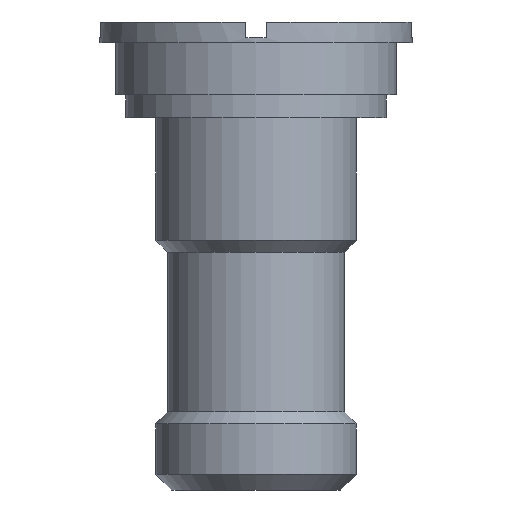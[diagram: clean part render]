
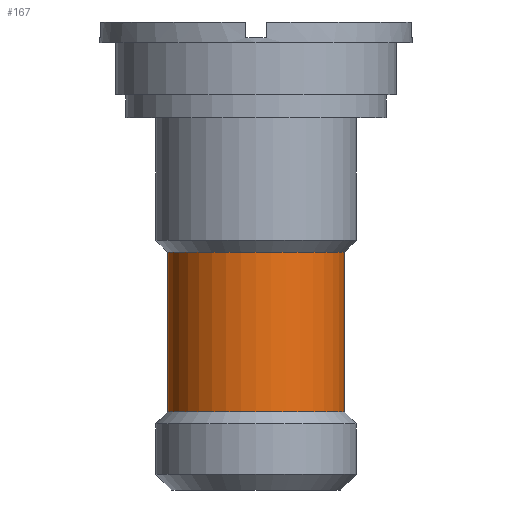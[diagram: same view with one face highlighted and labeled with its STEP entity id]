
A CAD part, left-side view. The second image highlights one B-rep face of the part: STEP entity #167.
In plain terms, the highlighted cylindrical face has radius 8.5 mm (diameter 17 mm), a partial arc.
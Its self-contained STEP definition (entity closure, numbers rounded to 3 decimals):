
#59=CYLINDRICAL_SURFACE('',#1492,8.5);
#167=ADVANCED_FACE('',(#226),#59,.T.);
#226=FACE_OUTER_BOUND('',#288,.F.);
#288=EDGE_LOOP('',(#485,#486,#487,#488));
#485=ORIENTED_EDGE('',*,*,#1208,.F.);
#486=ORIENTED_EDGE('',*,*,#1221,.F.);
#487=ORIENTED_EDGE('',*,*,#1209,.T.);
#488=ORIENTED_EDGE('',*,*,#1220,.T.);
#1032=LINE('',#2100,#1092);
#1033=LINE('',#2101,#1093);
#1092=VECTOR('',#1661,15.35);
#1093=VECTOR('',#1662,15.35);
#1208=EDGE_CURVE('',#1321,#1323,#1032,.T.);
#1209=EDGE_CURVE('',#1320,#1322,#1033,.T.);
#1220=EDGE_CURVE('',#1322,#1323,#1300,.T.);
#1221=EDGE_CURVE('',#1320,#1321,#1301,.T.);
#1300=CIRCLE('',#1452,8.5);
#1301=CIRCLE('',#1453,8.5);
#1320=VERTEX_POINT('',#1850);
#1321=VERTEX_POINT('',#1851);
#1322=VERTEX_POINT('',#1852);
#1323=VERTEX_POINT('',#1853);
#1452=AXIS2_PLACEMENT_3D('',#2112,#1679,#1680);
#1453=AXIS2_PLACEMENT_3D('',#2113,#1681,#1682);
#1492=AXIS2_PLACEMENT_3D('',#2162,#1769,#1770);
#1661=DIRECTION('',(0.,0.,-1.));
#1662=DIRECTION('',(0.,0.,-1.));
#1679=DIRECTION('',(0.,0.,-1.));
#1680=DIRECTION('',(0.,-1.,0.));
#1681=DIRECTION('',(0.,0.,-1.));
#1682=DIRECTION('',(0.,-1.,0.));
#1769=DIRECTION('',(0.,0.,-1.));
#1770=DIRECTION('',(0.,-1.,0.));
#1850=CARTESIAN_POINT('',(302.137,410.752,-372.776));
#1851=CARTESIAN_POINT('',(302.137,427.752,-372.776));
#1852=CARTESIAN_POINT('',(302.137,410.752,-388.126));
#1853=CARTESIAN_POINT('',(302.137,427.752,-388.126));
#2100=CARTESIAN_POINT('',(302.137,427.752,-372.776));
#2101=CARTESIAN_POINT('',(302.137,410.752,-372.776));
#2112=CARTESIAN_POINT('',(302.137,419.252,-388.126));
#2113=CARTESIAN_POINT('',(302.137,419.252,-372.776));
#2162=CARTESIAN_POINT('',(302.137,419.252,-372.776));
